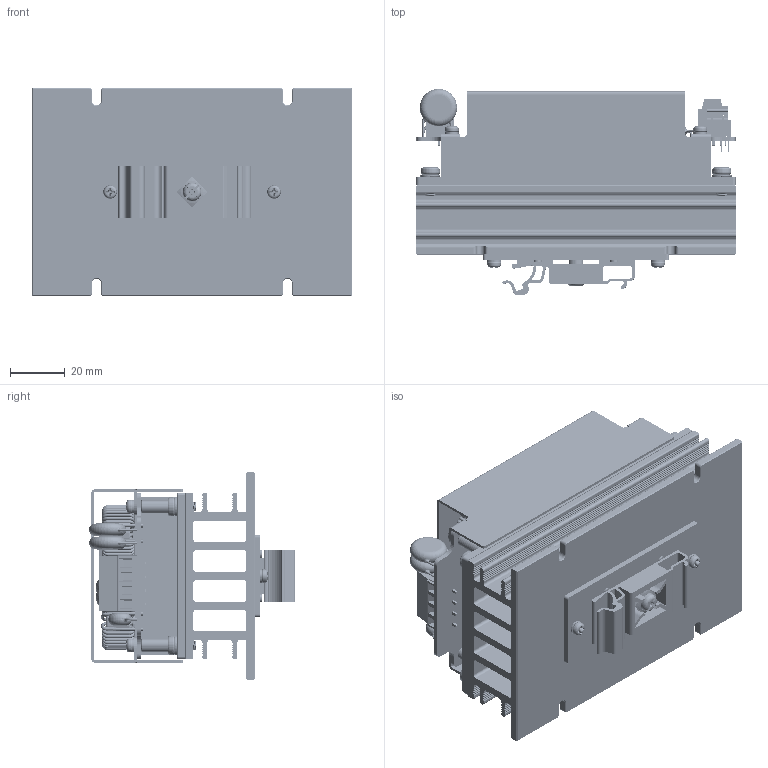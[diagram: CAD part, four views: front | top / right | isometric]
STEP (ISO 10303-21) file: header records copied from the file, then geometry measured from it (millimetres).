
FILE_DESCRIPTION (( 'STEP AP203' ), '1' );
FILE_NAME ('CQB50W8 CMFD+HD成品圖2025.01.02.STEP', '2025-01-03T09:16:12', ( '' ), ( '' ), 'SwSTEP 2.0', 'SolidWorks 2020', '' );
FILE_SCHEMA (( 'CONFIG_CONTROL_DESIGN' ));
Products named in the file (1): CQB50W8 CMFD+HD成品圖2025.01.02
Bounding box: 116.84 x 75.39 x 76.2 mm (x, y, z)
Volume: 184641.7 mm3; surface area: 130321.2 mm2
Topology: 87 solids, 98 shells, 3589 faces, 9403 edges, 6016 vertices
Faces by surface type: plane 1757, cylinder 948, bspline 405, torus 376, cone 98, sphere 5
Full cylindrical faces by diameter (mm): 0.6 x8, 0.8 x14, 1.02 x12, 1.15 x332, 1.5 x6, 2.2 x4, 2.5 x10, 2.8 x14, 3 x9, 3.2 x11, 3.25 x1, 3.5 x4, 3.76 x2, 3.8 x8, 3.9 x40, 4 x9, 4.2 x4, 4.5 x6, 4.7 x4, 5 x7, 5.4 x2, 8 x1, 8.2 x1, 9 x1, 12.5 x2, 12.8 x2, 17.8 x2
Entity records: 178186 total; most frequent: CARTESIAN_POINT 99379, ORIENTED_EDGE 16336, DIRECTION 14637, EDGE_CURVE 8168, VERTEX_POINT 5719, AXIS2_PLACEMENT_3D 5070, EDGE_LOOP 4701, VECTOR 4497
